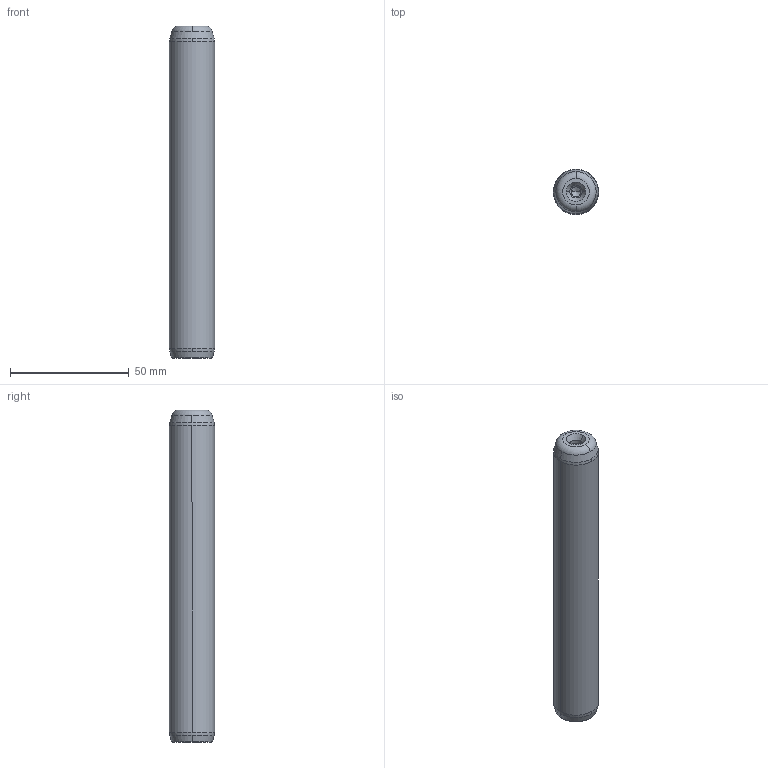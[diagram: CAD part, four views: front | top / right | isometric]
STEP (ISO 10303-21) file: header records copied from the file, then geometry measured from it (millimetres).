
FILE_DESCRIPTION((''),'2;1');
FILE_NAME('P10_019_140.stp','2008-12-23T13:56:21',(''),(''),'Mechanical Desktop 2009','Mechanical Desktop 2009',', , ');
FILE_SCHEMA(('CONFIG_CONTROL_DESIGN'));
Length unit declared in the file: millimetre
Products named in the file (5): Product; ProductAA; blmdl1; ProductA; blmdl1A
Assembly tree (2 placements, depth 3):
  Product
    ProductAA
      blmdl1
  ProductA
  blmdl1A
Bounding box: 19 x 19 x 140 mm (x, y, z)
Volume: 38967.5 mm3; surface area: 8945.2 mm2
Topology: 1 solids, 1 shells, 26 faces, 66 edges, 41 vertices
Faces by surface type: cone 10, cylinder 6, torus 4, bspline 4, plane 2
Entity records: 1100 total; most frequent: CARTESIAN_POINT 238, DIRECTION 162, ORIENTED_EDGE 128, AXIS2_PLACEMENT_3D 73, EDGE_CURVE 64, CIRCLE 48, VERTEX_POINT 41, EDGE_LOOP 27
